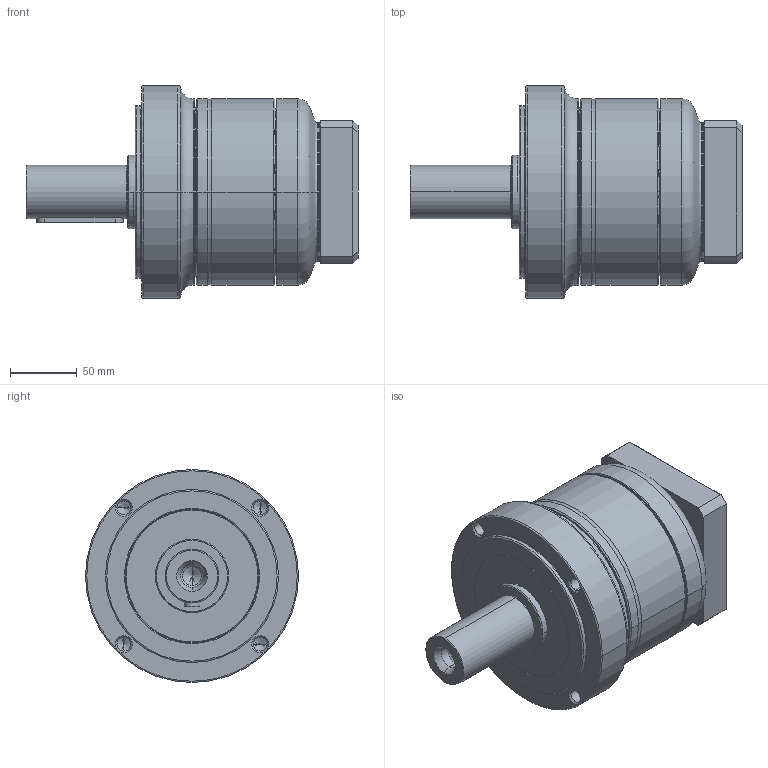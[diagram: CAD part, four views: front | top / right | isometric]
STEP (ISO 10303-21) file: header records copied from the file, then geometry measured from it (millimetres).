
FILE_DESCRIPTION((''),'2;1');
FILE_NAME('PG2-160_1ST_28-P0411600101_ASM','2016-04-12T',('d01943'),(''),'PRO/ENGINEER BY PARAMETRIC TECHNOLOGY CORPORATION, 2008410','PRO/ENGINEER BY PARAMETRIC TECHNOLOGY CORPORATION, 2008410','');
FILE_SCHEMA(('CONFIG_CONTROL_DESIGN'));
Length unit declared in the file: millimetre
Products named in the file (9): P1325510001; P0250500001; P1324500201; P0350501103; P0941502001; P0503600008; P0411600101; P1702500001; PG2-160_1ST_28-P0411600101_ASM
Assembly tree (8 placements, depth 2):
  PG2-160_1ST_28-P0411600101_ASM
    P1325510001
    P0250500001
    P1324500201
    P0350501103
    P0941502001
    P0503600008
    P0411600101
    P1702500001
Bounding box: 249.5 x 160 x 160 mm (x, y, z)
Volume: 2133308.9 mm3; surface area: 302222.6 mm2
Topology: 8 solids, 9 shells, 475 faces, 1046 edges, 601 vertices
Faces by surface type: cone 142, cylinder 140, torus 98, plane 79, bspline 16
Entity records: 17580 total; most frequent: CARTESIAN_POINT 6898, DIRECTION 2434, ORIENTED_EDGE 2024, AXIS2_PLACEMENT_3D 1044, EDGE_CURVE 1012, VERTEX_POINT 601, CIRCLE 568, EDGE_LOOP 539
